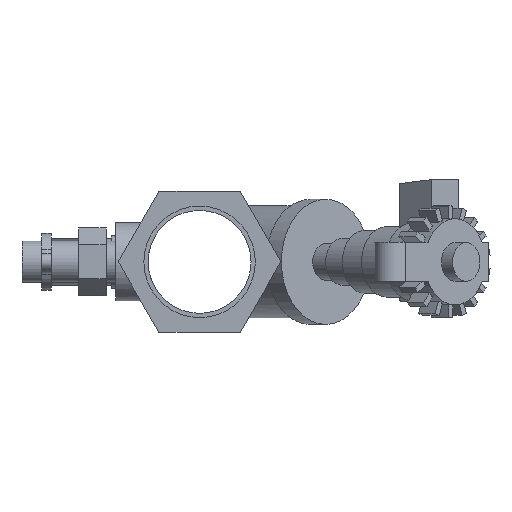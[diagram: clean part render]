
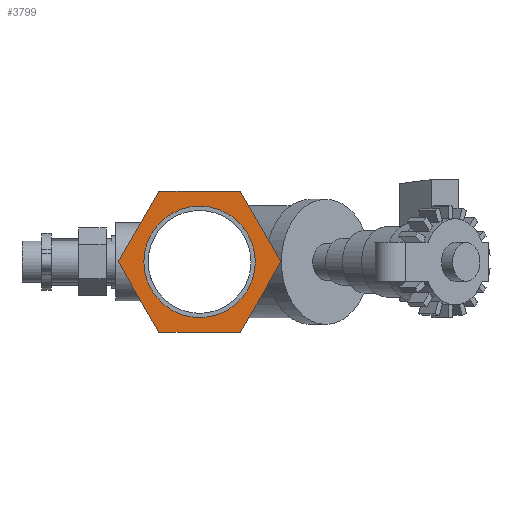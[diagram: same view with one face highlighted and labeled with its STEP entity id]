
A CAD part, left-side view. The second image highlights one B-rep face of the part: STEP entity #3799.
In plain terms, the highlighted planar face has unit normal (-1, 0, 0).
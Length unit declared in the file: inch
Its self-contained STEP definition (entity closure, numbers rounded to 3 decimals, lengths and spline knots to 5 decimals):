
#104=FACE_BOUND('',#708,.T.);
#256=PLANE('',#4182);
#458=FACE_OUTER_BOUND('',#707,.T.);
#707=EDGE_LOOP('',(#3378,#3379,#3380,#3381,#3382,#3383));
#708=EDGE_LOOP('',(#3384));
#1036=LINE('',#6649,#1369);
#1040=LINE('',#6657,#1373);
#1043=LINE('',#6663,#1376);
#1046=LINE('',#6669,#1379);
#1049=LINE('',#6675,#1382);
#1051=LINE('',#6678,#1384);
#1369=VECTOR('',#5211,0.3937);
#1373=VECTOR('',#5217,0.3937);
#1376=VECTOR('',#5222,0.3937);
#1379=VECTOR('',#5227,0.3937);
#1382=VECTOR('',#5232,0.3937);
#1384=VECTOR('',#5236,0.3937);
#1547=CIRCLE('',#4175,0.7125);
#1880=VERTEX_POINT('',#6641);
#1882=VERTEX_POINT('',#6646);
#1883=VERTEX_POINT('',#6648);
#1885=VERTEX_POINT('',#6654);
#1887=VERTEX_POINT('',#6660);
#1889=VERTEX_POINT('',#6666);
#1891=VERTEX_POINT('',#6672);
#2381=EDGE_CURVE('',#1880,#1880,#1547,.T.);
#2383=EDGE_CURVE('',#1883,#1882,#1036,.T.);
#2387=EDGE_CURVE('',#1882,#1885,#1040,.T.);
#2390=EDGE_CURVE('',#1885,#1887,#1043,.T.);
#2393=EDGE_CURVE('',#1887,#1889,#1046,.T.);
#2396=EDGE_CURVE('',#1889,#1891,#1049,.T.);
#2398=EDGE_CURVE('',#1891,#1883,#1051,.T.);
#3378=ORIENTED_EDGE('',*,*,#2383,.T.);
#3379=ORIENTED_EDGE('',*,*,#2387,.T.);
#3380=ORIENTED_EDGE('',*,*,#2390,.T.);
#3381=ORIENTED_EDGE('',*,*,#2393,.T.);
#3382=ORIENTED_EDGE('',*,*,#2396,.T.);
#3383=ORIENTED_EDGE('',*,*,#2398,.T.);
#3384=ORIENTED_EDGE('',*,*,#2381,.F.);
#3799=ADVANCED_FACE('',(#458,#104),#256,.T.);
#4175=AXIS2_PLACEMENT_3D('',#6643,#5206,#5207);
#4182=AXIS2_PLACEMENT_3D('',#6680,#5238,#5239);
#5206=DIRECTION('center_axis',(-1.,0.,0.));
#5207=DIRECTION('ref_axis',(0.,1.,0.));
#5211=DIRECTION('',(0.,1.,0.));
#5217=DIRECTION('',(0.,0.5,-0.866));
#5222=DIRECTION('',(0.,-0.5,-0.866));
#5227=DIRECTION('',(0.,-1.,0.));
#5232=DIRECTION('',(0.,-0.5,0.866));
#5236=DIRECTION('',(0.,0.5,0.866));
#5238=DIRECTION('center_axis',(-1.,0.,0.));
#5239=DIRECTION('ref_axis',(0.,0.,1.));
#6641=CARTESIAN_POINT('',(-2.87,-0.7125,0.));
#6643=CARTESIAN_POINT('Origin',(-2.87,0.,0.));
#6646=CARTESIAN_POINT('',(-2.87,0.51962,0.9));
#6648=CARTESIAN_POINT('',(-2.87,-0.51962,0.9));
#6649=CARTESIAN_POINT('',(-2.87,0.51962,0.9));
#6654=CARTESIAN_POINT('',(-2.87,1.03923,0.));
#6657=CARTESIAN_POINT('',(-2.87,1.03923,0.));
#6660=CARTESIAN_POINT('',(-2.87,0.51962,-0.9));
#6663=CARTESIAN_POINT('',(-2.87,0.51962,-0.9));
#6666=CARTESIAN_POINT('',(-2.87,-0.51962,-0.9));
#6669=CARTESIAN_POINT('',(-2.87,-0.51962,-0.9));
#6672=CARTESIAN_POINT('',(-2.87,-1.03923,0.));
#6675=CARTESIAN_POINT('',(-2.87,-1.03923,0.));
#6678=CARTESIAN_POINT('',(-2.87,-0.51962,0.9));
#6680=CARTESIAN_POINT('Origin',(-2.87,0.,0.));
